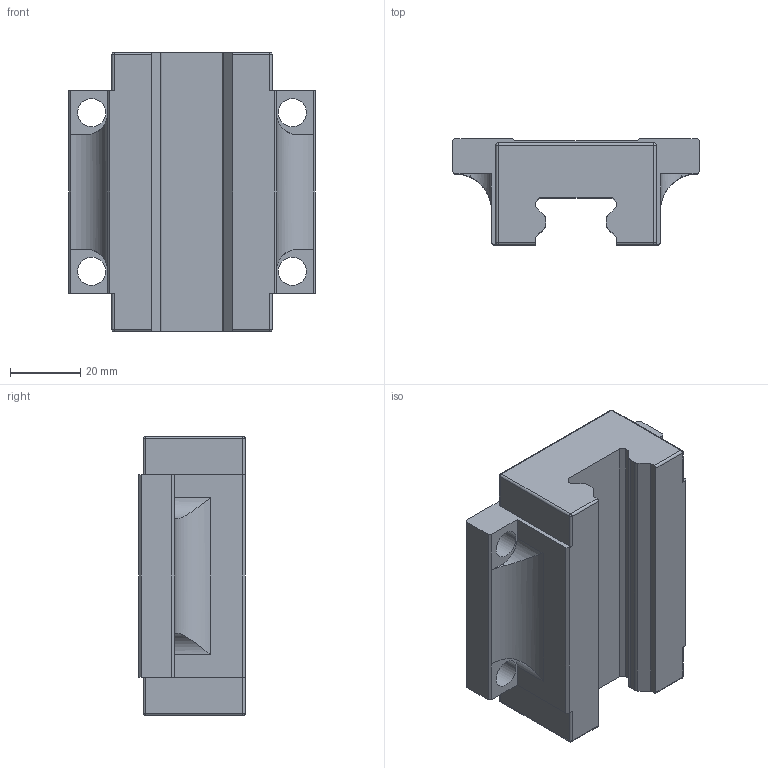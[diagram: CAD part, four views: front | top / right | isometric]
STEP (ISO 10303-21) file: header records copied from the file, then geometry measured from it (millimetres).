
FILE_DESCRIPTION (( 'STEP AP203' ), '1' );
FILE_NAME ('L1016.F25-BC.step', '2019-06-13T14:21:54', ( '' ), ( '' ), 'SwSTEP 2.0', 'SolidWorks 2017', '' );
FILE_SCHEMA (( 'CONFIG_CONTROL_DESIGN' ));
Length unit declared in the file: millimetre
Products named in the file (1): L1016.F25-BC
Bounding box: 70 x 30.2 x 79.2 mm (x, y, z)
Volume: 101289 mm3; surface area: 20019.1 mm2
Topology: 1 solids, 1 shells, 92 faces, 250 edges, 152 vertices
Faces by surface type: plane 48, cylinder 36, sphere 8
Entity records: 2987 total; most frequent: CARTESIAN_POINT 579, DIRECTION 492, ORIENTED_EDGE 484, EDGE_CURVE 242, VECTOR 170, LINE 170, AXIS2_PLACEMENT_3D 161, VERTEX_POINT 152
